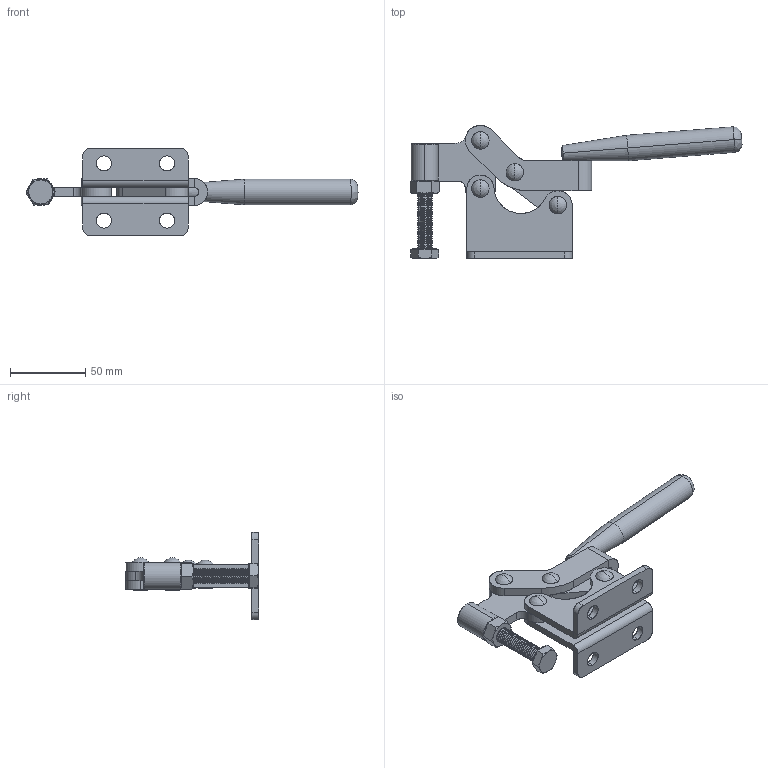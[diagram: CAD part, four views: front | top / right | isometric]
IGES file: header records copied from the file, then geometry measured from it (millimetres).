
Start section: SolidWorks IGES file using analytic representation for surfaces
Global section: file name: D:\GH Files\GH-SW-FILES\GH2\20448\GH-20448.IGS; native system: SolidWorks 2007; preprocessor: SolidWorks 2007; author: Administrator; date: 061019.170537; units: millimetre
Bounding box: 220.79 x 88.5 x 58 mm (x, y, z)
Surface area: 53007.6 mm2 (no closed solid volume)
Topology: 0 solids, 0 shells, 550 faces, 5306 edges, 5294 vertices
Faces by surface type: revolution 449, bspline 101
